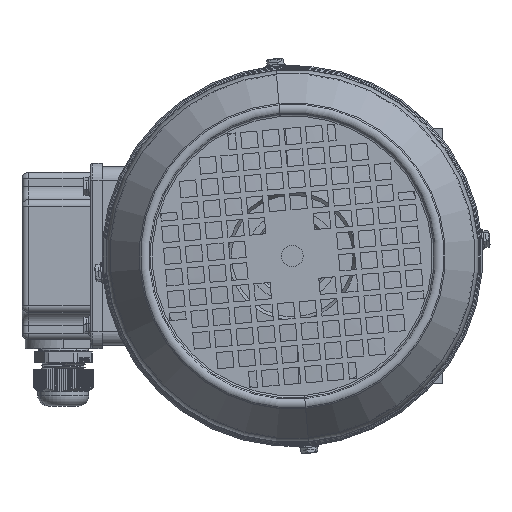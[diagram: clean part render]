
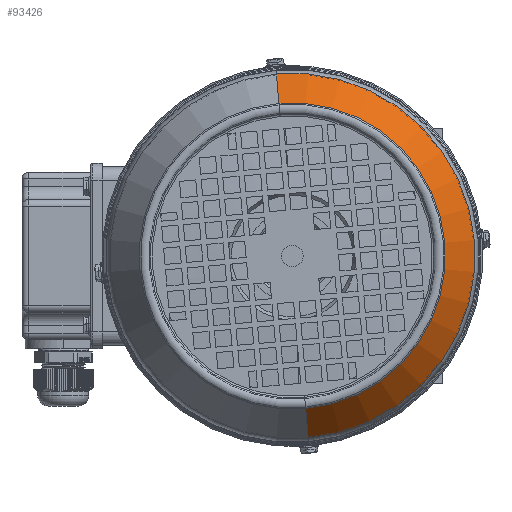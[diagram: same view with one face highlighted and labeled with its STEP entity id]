
A CAD part, left-side view. The second image highlights one B-rep face of the part: STEP entity #93426.
In plain terms, the highlighted conical face has half-angle 32.805 degrees and reference radius 85.75 mm.
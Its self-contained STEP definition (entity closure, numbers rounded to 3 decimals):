
#14163 = CIRCLE ( 'NONE', #59557, 84.155 ) ;
#15218 = LINE ( 'NONE', #34157, #79333 ) ;
#15751 = EDGE_CURVE ( 'NONE', #46994, #94770, #14163, .T. ) ;
#26062 = ORIENTED_EDGE ( 'NONE', *, *, #91907, .F. ) ;
#26866 = CARTESIAN_POINT ( 'NONE',  ( -80.625, 0., -70.522 ) ) ;
#34157 = CARTESIAN_POINT ( 'NONE',  ( -57., 0., -85.75 ) ) ;
#36756 = EDGE_CURVE ( 'NONE', #110099, #94770, #57057, .T. ) ;
#41345 = FACE_OUTER_BOUND ( 'NONE', #53430, .T. ) ;
#41441 = CIRCLE ( 'NONE', #42343, 70.522 ) ;
#42343 = AXIS2_PLACEMENT_3D ( 'NONE', #79001, #53587, #88633 ) ;
#45474 = ORIENTED_EDGE ( 'NONE', *, *, #15751, .T. ) ;
#46994 = VERTEX_POINT ( 'NONE', #109439 ) ;
#47693 = ORIENTED_EDGE ( 'NONE', *, *, #55189, .T. ) ;
#52377 = DIRECTION ( 'NONE',  ( 0.841, 0., 0.542 ) ) ;
#53131 = CARTESIAN_POINT ( 'NONE',  ( -57., 0., 85.75 ) ) ;
#53430 = EDGE_LOOP ( 'NONE', ( #72766, #26062, #47693, #45474 ) ) ;
#53587 = DIRECTION ( 'NONE',  ( -1., 0., 0. ) ) ;
#55189 = EDGE_CURVE ( 'NONE', #61127, #46994, #15218, .T. ) ;
#55191 = AXIS2_PLACEMENT_3D ( 'NONE', #105882, #80841, #55845 ) ;
#55845 = DIRECTION ( 'NONE',  ( 0., 0., -1. ) ) ;
#56441 = DIRECTION ( 'NONE',  ( 0., 0., 1. ) ) ;
#57057 = LINE ( 'NONE', #53131, #63681 ) ;
#59557 = AXIS2_PLACEMENT_3D ( 'NONE', #66073, #100478, #56441 ) ;
#61127 = VERTEX_POINT ( 'NONE', #26866 ) ;
#63681 = VECTOR ( 'NONE', #52377, 1000. ) ;
#66073 = CARTESIAN_POINT ( 'NONE',  ( -59.474, 0., 0. ) ) ;
#72766 = ORIENTED_EDGE ( 'NONE', *, *, #36756, .F. ) ;
#74959 = CARTESIAN_POINT ( 'NONE',  ( -59.474, 0., 84.155 ) ) ;
#79001 = CARTESIAN_POINT ( 'NONE',  ( -80.625, 0., 0. ) ) ;
#79333 = VECTOR ( 'NONE', #92759, 1000. ) ;
#80841 = DIRECTION ( 'NONE',  ( 1., 0., 0. ) ) ;
#86441 = CONICAL_SURFACE ( 'NONE', #55191, 85.75, 0.573 ) ;
#88633 = DIRECTION ( 'NONE',  ( 0., 0., 1. ) ) ;
#91907 = EDGE_CURVE ( 'NONE', #61127, #110099, #41441, .T. ) ;
#92759 = DIRECTION ( 'NONE',  ( 0.841, 0., -0.542 ) ) ;
#93426 = ADVANCED_FACE ( 'NONE', ( #41345 ), #86441, .T. ) ;
#94770 = VERTEX_POINT ( 'NONE', #74959 ) ;
#98467 = CARTESIAN_POINT ( 'NONE',  ( -80.625, 0., 70.522 ) ) ;
#100478 = DIRECTION ( 'NONE',  ( -1., 0., 0. ) ) ;
#105882 = CARTESIAN_POINT ( 'NONE',  ( -57., 0., 0. ) ) ;
#109439 = CARTESIAN_POINT ( 'NONE',  ( -59.474, 0., -84.155 ) ) ;
#110099 = VERTEX_POINT ( 'NONE', #98467 ) ;
